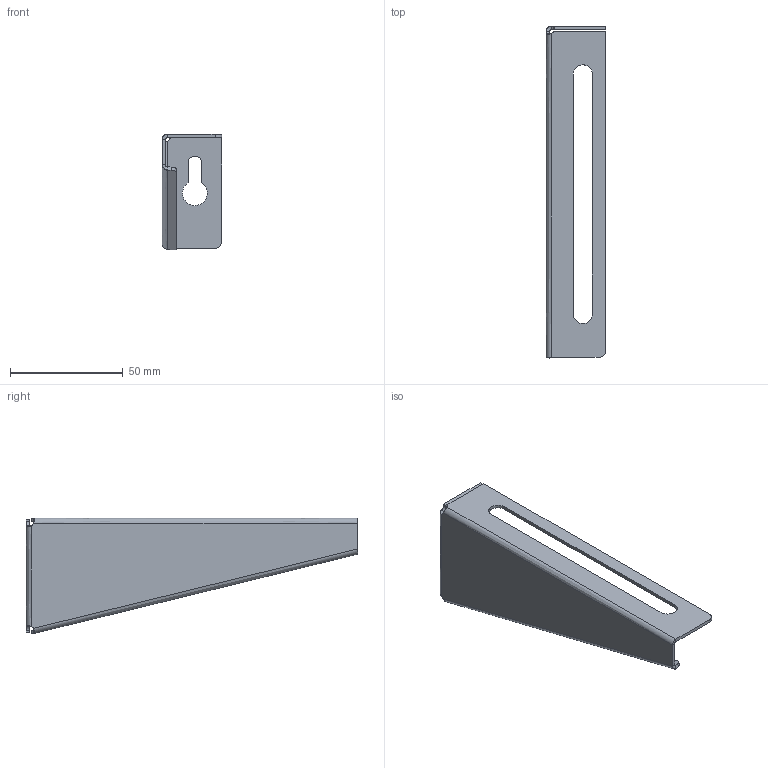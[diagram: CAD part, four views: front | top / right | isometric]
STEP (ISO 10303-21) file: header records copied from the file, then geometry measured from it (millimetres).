
FILE_DESCRIPTION(/* description */ (''),/* implementation_level */ '2;1');
FILE_NAME(/* name */ 'NZMU100_part',/* time_stamp */ '2022-09-01T12:29:13+02:00',/* author */ (''),/* organization */ (''),/* preprocessor_version */ 'ST-DEVELOPER v16.5',/* originating_system */ '',/* authorisation */ '');
FILE_SCHEMA (('CONFIG_CONTROL_DESIGN'));
Length unit declared in the file: millimetre
Products named in the file (1): Document
Bounding box: 26.5 x 147.51 x 51.46 mm (x, y, z)
Volume: 13773.4 mm3; surface area: 19587.8 mm2
Topology: 1 solids, 1 shells, 50 faces, 120 edges, 72 vertices
Faces by surface type: plane 24, cylinder 14, bspline 12
Entity records: 1539 total; most frequent: CARTESIAN_POINT 706, ORIENTED_EDGE 240, EDGE_CURVE 120, VERTEX_POINT 72, EDGE_LOOP 54, ADVANCED_FACE 50, FACE_OUTER_BOUND 50, DIRECTION 42
